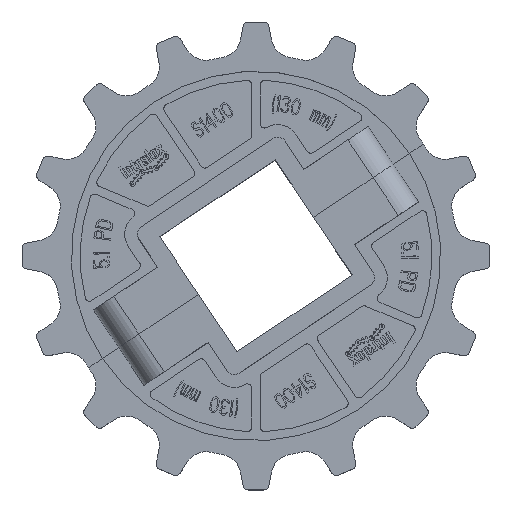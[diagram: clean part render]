
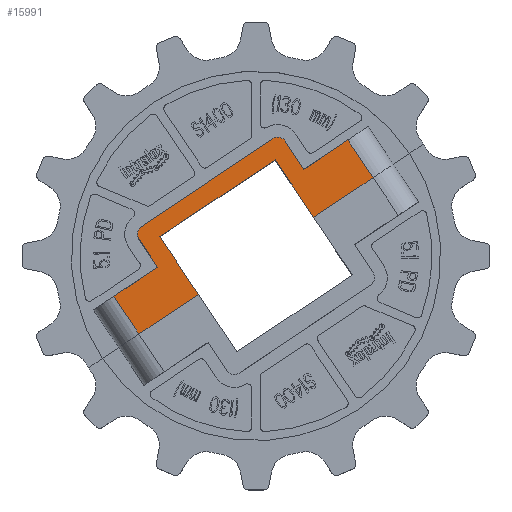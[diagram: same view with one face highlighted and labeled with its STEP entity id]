
A CAD part, top view. The second image highlights one B-rep face of the part: STEP entity #15991.
In plain terms, the highlighted planar face has unit normal (0, 0, 1).
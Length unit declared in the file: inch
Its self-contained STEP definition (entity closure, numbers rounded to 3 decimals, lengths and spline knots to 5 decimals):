
#391=DIRECTION('',(0.831,0.556,0.));
#392=VECTOR('',#391,0.6);
#393=CARTESIAN_POINT('',(0.54535,0.98378,0.99));
#394=LINE('',#393,#392);
#400=DIRECTION('',(0.831,0.556,0.));
#401=VECTOR('',#400,0.6);
#402=CARTESIAN_POINT('',(-1.61647,-0.46071,0.99));
#403=LINE('',#402,#401);
#1523=DIRECTION('',(0.556,-0.831,0.));
#1524=VECTOR('',#1523,0.7875);
#1525=CARTESIAN_POINT('',(-1.09229,0.21727,0.99));
#1526=LINE('',#1525,#1524);
#1527=DIRECTION('',(-0.831,-0.556,0.));
#1528=VECTOR('',#1527,0.8125);
#1529=CARTESIAN_POINT('',(-0.65478,-0.43751,0.99));
#1530=LINE('',#1529,#1528);
#1531=DIRECTION('',(-0.556,0.831,0.));
#1532=VECTOR('',#1531,0.515);
#1533=CARTESIAN_POINT('',(-1.33035,-0.88891,0.99));
#1534=LINE('',#1533,#1532);
#1535=DIRECTION('',(0.556,-0.831,0.));
#1536=VECTOR('',#1535,0.385);
#1537=CARTESIAN_POINT('',(-1.33148,0.19275,0.99));
#1538=LINE('',#1537,#1536);
#1539=CARTESIAN_POINT('',(-1.24834,0.24831,0.99));
#1540=DIRECTION('',(0.,0.,1.));
#1541=DIRECTION('',(-0.556,0.831,0.));
#1542=AXIS2_PLACEMENT_3D('',#1539,#1540,#1541);
#1544=DIRECTION('',(-0.831,-0.556,0.));
#1545=VECTOR('',#1544,1.8);
#1546=CARTESIAN_POINT('',(0.19275,1.33148,0.99));
#1547=LINE('',#1546,#1545);
#1548=CARTESIAN_POINT('',(0.24831,1.24834,0.99));
#1549=DIRECTION('',(0.,0.,1.));
#1550=DIRECTION('',(0.831,0.556,0.));
#1551=AXIS2_PLACEMENT_3D('',#1548,#1549,#1550);
#1553=DIRECTION('',(-0.556,0.831,0.));
#1554=VECTOR('',#1553,0.385);
#1555=CARTESIAN_POINT('',(0.54535,0.98378,0.99));
#1556=LINE('',#1555,#1554);
#1557=DIRECTION('',(0.556,-0.831,0.));
#1558=VECTOR('',#1557,0.515);
#1559=CARTESIAN_POINT('',(1.04423,1.31712,0.99));
#1560=LINE('',#1559,#1558);
#1561=DIRECTION('',(-0.831,-0.556,0.));
#1562=VECTOR('',#1561,0.8125);
#1563=CARTESIAN_POINT('',(1.33035,0.88891,0.99));
#1564=LINE('',#1563,#1562);
#1565=DIRECTION('',(-0.556,0.831,0.));
#1566=VECTOR('',#1565,0.7875);
#1567=CARTESIAN_POINT('',(0.65478,0.43751,0.99));
#1568=LINE('',#1567,#1566);
#1569=DIRECTION('',(-0.831,-0.556,0.));
#1570=VECTOR('',#1569,1.575);
#1571=CARTESIAN_POINT('',(0.21727,1.09229,0.99));
#1572=LINE('',#1571,#1570);
#10859=CARTESIAN_POINT('',(0.19275,1.33148,0.99));
#10860=CARTESIAN_POINT('',(-1.30389,0.33146,0.99));
#10861=VERTEX_POINT('',#10859);
#10862=VERTEX_POINT('',#10860);
#10889=CARTESIAN_POINT('',(0.54535,0.98378,0.99));
#10890=VERTEX_POINT('',#10889);
#10893=CARTESIAN_POINT('',(-1.11759,-0.12736,0.99));
#10894=VERTEX_POINT('',#10893);
#10899=CARTESIAN_POINT('',(0.33146,1.30389,0.99));
#10900=VERTEX_POINT('',#10899);
#10901=CARTESIAN_POINT('',(-1.33148,0.19275,0.99));
#10902=VERTEX_POINT('',#10901);
#11195=CARTESIAN_POINT('',(1.04423,1.31712,0.99));
#11196=VERTEX_POINT('',#11195);
#11197=CARTESIAN_POINT('',(-1.61647,-0.46071,0.99));
#11198=VERTEX_POINT('',#11197);
#14283=CARTESIAN_POINT('',(1.33035,0.88891,0.99));
#14284=VERTEX_POINT('',#14283);
#14285=CARTESIAN_POINT('',(-1.33035,-0.88891,0.99));
#14286=VERTEX_POINT('',#14285);
#14295=CARTESIAN_POINT('',(-1.09229,0.21727,0.99));
#14296=CARTESIAN_POINT('',(-0.65478,-0.43751,0.99));
#14297=VERTEX_POINT('',#14295);
#14298=VERTEX_POINT('',#14296);
#14299=CARTESIAN_POINT('',(0.65478,0.43751,0.99));
#14300=CARTESIAN_POINT('',(0.21727,1.09229,0.99));
#14301=VERTEX_POINT('',#14299);
#14302=VERTEX_POINT('',#14300);
#15962=CARTESIAN_POINT('',(0.,0.,0.99));
#15963=DIRECTION('',(0.,0.,1.));
#15964=DIRECTION('',(0.,1.,0.));
#15965=AXIS2_PLACEMENT_3D('',#15962,#15963,#15964);
#15966=PLANE('',#15965);
#15968=ORIENTED_EDGE('',*,*,#15967,.T.);
#15969=ORIENTED_EDGE('',*,*,#14492,.T.);
#15970=ORIENTED_EDGE('',*,*,#15955,.T.);
#15971=ORIENTED_EDGE('',*,*,#14629,.T.);
#15973=ORIENTED_EDGE('',*,*,#15972,.F.);
#15975=ORIENTED_EDGE('',*,*,#15974,.F.);
#15977=ORIENTED_EDGE('',*,*,#15976,.F.);
#15979=ORIENTED_EDGE('',*,*,#15978,.F.);
#15980=ORIENTED_EDGE('',*,*,#15801,.F.);
#15981=ORIENTED_EDGE('',*,*,#14580,.T.);
#15983=ORIENTED_EDGE('',*,*,#15982,.T.);
#15984=ORIENTED_EDGE('',*,*,#14516,.T.);
#15986=ORIENTED_EDGE('',*,*,#15985,.T.);
#15988=ORIENTED_EDGE('',*,*,#15987,.T.);
#15989=EDGE_LOOP('',(#15968,#15969,#15970,#15971,#15973,#15975,#15977,#15979,
#15980,#15981,#15983,#15984,#15986,#15988));
#15990=FACE_OUTER_BOUND('',#15989,.F.);
#15991=ADVANCED_FACE('',(#15990),#15966,.T.);
#1543=CIRCLE('',#1542,0.1);
#1552=CIRCLE('',#1551,0.1);
#14492=EDGE_CURVE('',#14298,#14286,#1530,.T.);
#14516=EDGE_CURVE('',#14284,#14301,#1564,.T.);
#14580=EDGE_CURVE('',#10890,#11196,#394,.T.);
#14629=EDGE_CURVE('',#11198,#10894,#403,.T.);
#15801=EDGE_CURVE('',#10890,#10900,#1556,.T.);
#15955=EDGE_CURVE('',#14286,#11198,#1534,.T.);
#15967=EDGE_CURVE('',#14297,#14298,#1526,.T.);
#15972=EDGE_CURVE('',#10902,#10894,#1538,.T.);
#15974=EDGE_CURVE('',#10862,#10902,#1543,.T.);
#15976=EDGE_CURVE('',#10861,#10862,#1547,.T.);
#15978=EDGE_CURVE('',#10900,#10861,#1552,.T.);
#15982=EDGE_CURVE('',#11196,#14284,#1560,.T.);
#15985=EDGE_CURVE('',#14301,#14302,#1568,.T.);
#15987=EDGE_CURVE('',#14302,#14297,#1572,.T.);
